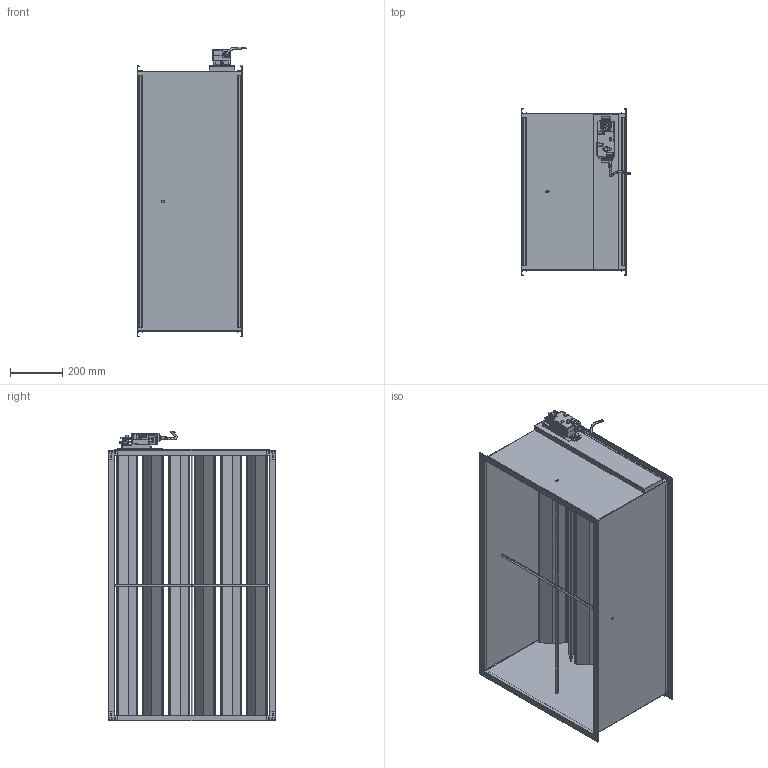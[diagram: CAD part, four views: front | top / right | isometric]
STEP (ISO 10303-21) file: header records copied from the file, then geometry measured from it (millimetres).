
FILE_DESCRIPTION (( 'STEP AP214' ), '1' );
FILE_NAME ('VAV-S1000600.STEP', '2025-05-08T12:43:48', ( '' ), ( '' ), 'SwSTEP 2.0', 'SolidWorks 2025', '' );
FILE_SCHEMA (( 'AUTOMOTIVE_DESIGN' ));
Length unit declared in the file: millimetre
Products named in the file (1): VAV-S1000600
Bounding box: 420.44 x 641 x 1113.68 mm (x, y, z)
Surface area: 5255540.7 mm2 (no closed solid volume)
Topology: 0 solids, 48 shells, 2116 faces, 5536 edges, 3525 vertices
Faces by surface type: plane 1549, cylinder 514, bspline 24, sphere 18, cone 10, torus 1
Full cylindrical faces by diameter (mm): 1 x4, 6 x17, 8 x1, 9 x8, 11 x1, 20 x1, 21 x2
Entity records: 92687 total; most frequent: CARTESIAN_POINT 41729, ORIENTED_EDGE 10859, DIRECTION 7041, EDGE_CURVE 5453, VERTEX_POINT 3499, B_SPLINE_CURVE_WITH_KNOTS 3170, AXIS2_PLACEMENT_3D 2677, EDGE_LOOP 2323
